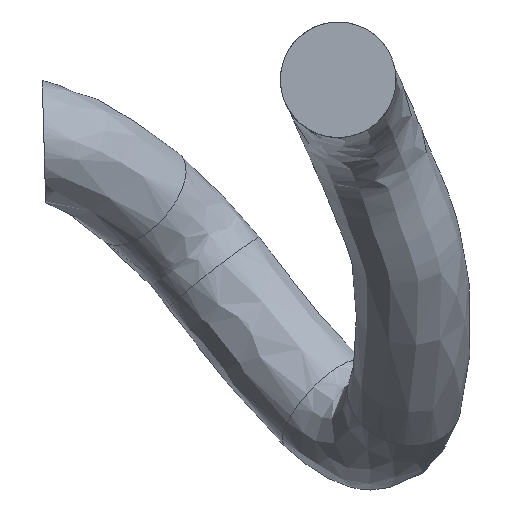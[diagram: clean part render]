
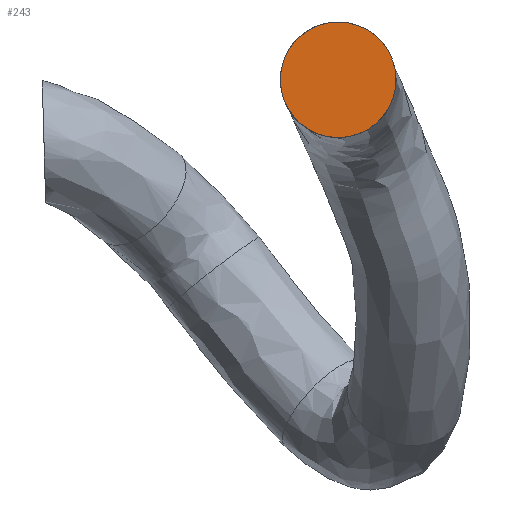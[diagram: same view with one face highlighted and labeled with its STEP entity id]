
A CAD part, front view. The second image highlights one B-rep face of the part: STEP entity #243.
In plain terms, the highlighted planar face has unit normal (0, -1, 0).
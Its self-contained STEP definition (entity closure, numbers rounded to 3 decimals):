
#136 = DIRECTION ( 'NONE',  ( 0., 1., 0. ) ) ;
#143 = EDGE_LOOP ( 'NONE', ( #1101 ) ) ;
#218 = PLANE ( 'NONE',  #359 ) ;
#243 = ADVANCED_FACE ( 'NONE', ( #989 ), #218, .F. ) ;
#309 = CARTESIAN_POINT ( 'NONE',  ( 2832., -113.508, 2052.5 ) ) ;
#359 = AXIS2_PLACEMENT_3D ( 'NONE', #690, #886, #408 ) ;
#408 = DIRECTION ( 'NONE',  ( -1., 0., 0. ) ) ;
#580 = VERTEX_POINT ( 'NONE', #309 ) ;
#598 = EDGE_CURVE ( 'NONE', #580, #580, #967, .T. ) ;
#690 = CARTESIAN_POINT ( 'NONE',  ( 2877., -113.508, 2052.5 ) ) ;
#760 = AXIS2_PLACEMENT_3D ( 'NONE', #1091, #136, #1191 ) ;
#886 = DIRECTION ( 'NONE',  ( 0., 1., 0. ) ) ;
#967 = CIRCLE ( 'NONE', #760, 45. ) ;
#989 = FACE_OUTER_BOUND ( 'NONE', #143, .T. ) ;
#1091 = CARTESIAN_POINT ( 'NONE',  ( 2877., -113.508, 2052.5 ) ) ;
#1101 = ORIENTED_EDGE ( 'NONE', *, *, #598, .F. ) ;
#1191 = DIRECTION ( 'NONE',  ( -1., 0., 0. ) ) ;
